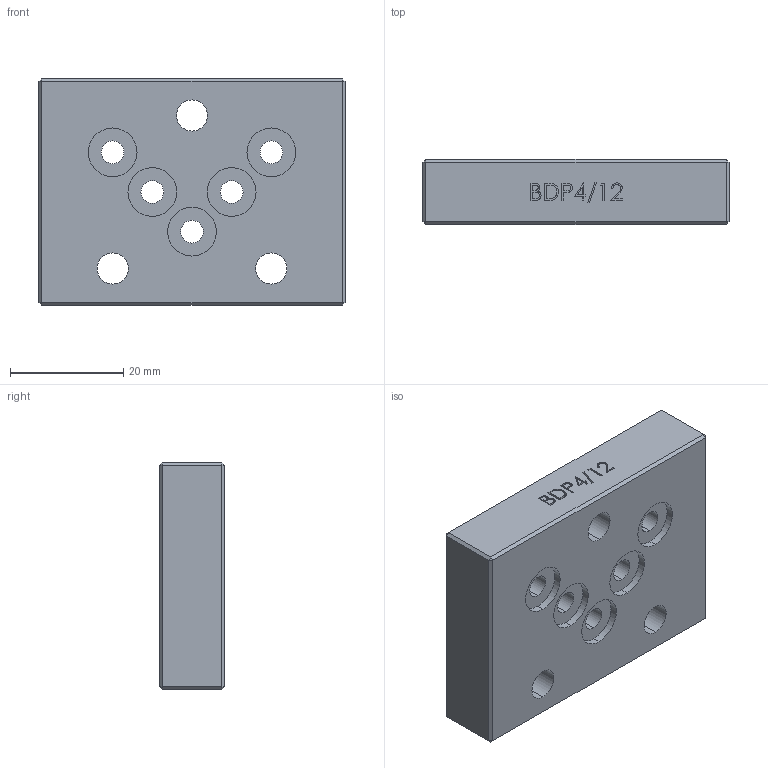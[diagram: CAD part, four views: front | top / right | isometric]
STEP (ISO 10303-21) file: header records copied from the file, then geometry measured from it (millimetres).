
FILE_DESCRIPTION (( 'STEP AP214' ), '1' );
FILE_NAME ('BDP4_12.STEP', '2017-04-26T06:23:14', ( '' ), ( '' ), 'SwSTEP 2.0', 'SolidWorks 2016', '' );
FILE_SCHEMA (( 'AUTOMOTIVE_DESIGN' ));
Length unit declared in the file: millimetre
Products named in the file (1): BDP4_12
Bounding box: 54 x 11.5 x 40 mm (x, y, z)
Volume: 22943.5 mm3; surface area: 7546.9 mm2
Topology: 1 solids, 1 shells, 149 faces, 366 edges, 236 vertices
Faces by surface type: plane 95, bspline 28, cylinder 26
Entity records: 5978 total; most frequent: CARTESIAN_POINT 2540, ORIENTED_EDGE 732, DIRECTION 606, EDGE_CURVE 366, VECTOR 258, LINE 258, VERTEX_POINT 236, EDGE_LOOP 182
